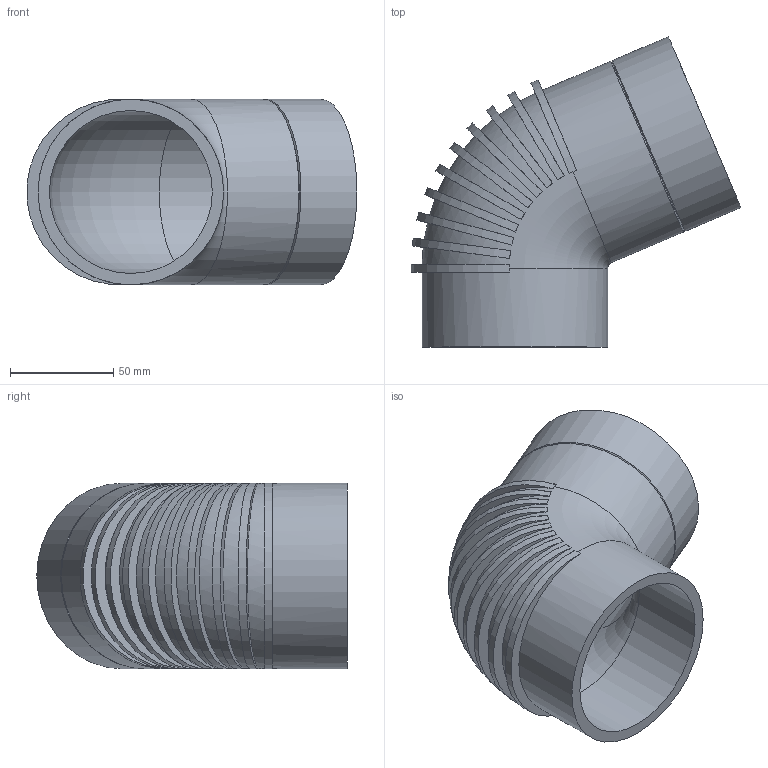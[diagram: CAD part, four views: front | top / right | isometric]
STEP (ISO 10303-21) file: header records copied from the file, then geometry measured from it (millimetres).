
FILE_DESCRIPTION(/* description */ (''),/* implementation_level */ '2;1');
FILE_NAME(/* name */ 'Z:\Geberit\Export\NewStep\Bogen_Ipart\stp\308670.stp',/* time_stamp */ '2014-04-03T16:43:10+02:00',/* author */ ('Marco'),/* organization */ (''),/* preprocessor_version */ 'ST-DEVELOPER v15.2',/* originating_system */ 'Autodesk Inventor 2014',/* authorisation */ '');
FILE_SCHEMA (('AUTOMOTIVE_DESIGN { 1 0 10303 214 3 1 1 }'));
Length unit declared in the file: millimetre
Products named in the file (1): 308670
Bounding box: 159.97 x 150.5 x 90 mm (x, y, z)
Volume: 256326.6 mm3; surface area: 99888.3 mm2
Topology: 1 solids, 1 shells, 41 faces, 114 edges, 75 vertices
Faces by surface type: plane 22, cylinder 15, cone 2, torus 2
Full cylindrical faces by diameter (mm): 79 x2, 90 x3
Entity records: 1842 total; most frequent: CARTESIAN_POINT 898, ORIENTED_EDGE 186, DIRECTION 154, EDGE_CURVE 93, AXIS2_PLACEMENT_3D 75, VERTEX_POINT 71, EDGE_LOOP 60, B_SPLINE_CURVE_WITH_KNOTS 56
